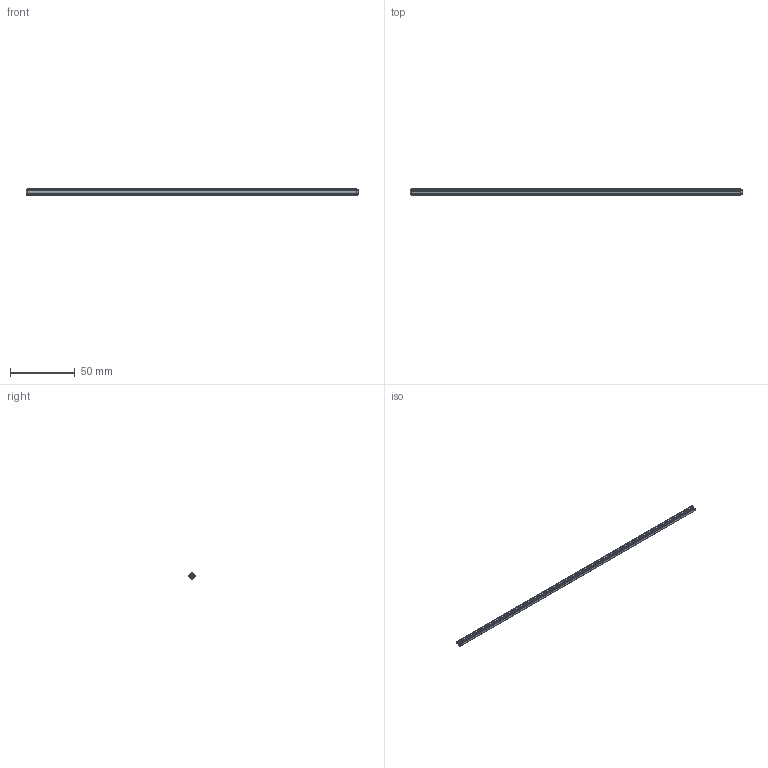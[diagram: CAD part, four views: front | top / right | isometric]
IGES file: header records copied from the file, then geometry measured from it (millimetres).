
Start section: SolidWorks IGES file using analytic representation for surfaces
Global section: file name: C:\Users\PC\Desktop\Lego Technik Gear and Axles\Axles\STEP, IGES, STL\50450 Black Technic Axle 32.IGS; native system: SolidWorks 2014; preprocessor: SolidWorks 2014; author: PC; date: 150218.234131; units: millimetre
Bounding box: 256 x 4.79 x 4.8 mm (x, y, z)
Surface area: 4363.7 mm2 (no closed solid volume)
Topology: 0 solids, 0 shells, 77 faces, 490 edges, 474 vertices
Faces by surface type: bspline 44, revolution 33
